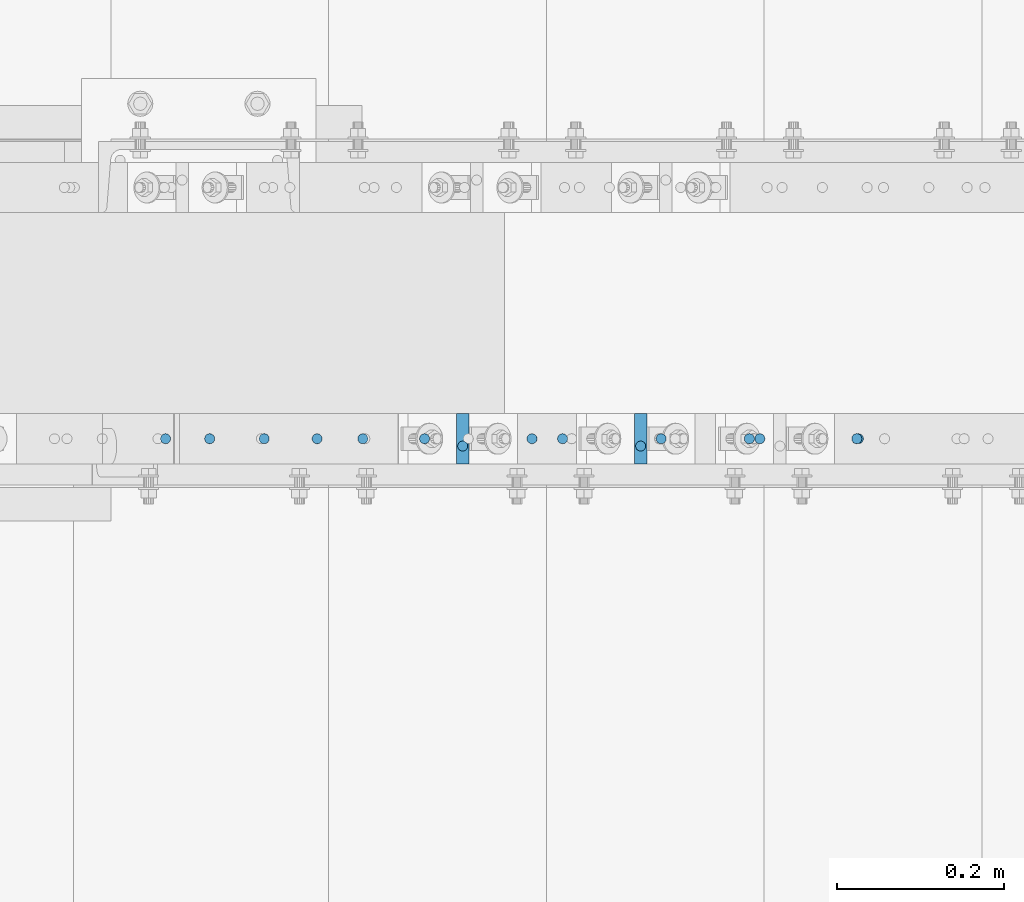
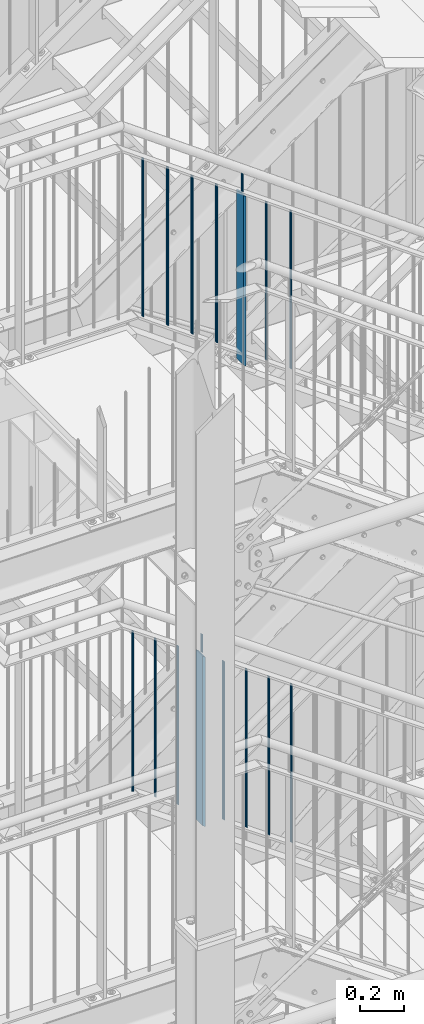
# One storey, part 48 of 821: 17 columns.
"""IFC2X3 building model written with IfcOpenShell, lengths in millimetres."""

from ifc_helpers import new_model, entity, si_unit, converted_unit, frame, origin, origin_with_axes, origin_2d, place, context, project, spatial, rectangle, circle, extrude, clip, halfspace, material, element, save


model = new_model("IFC2X3")

# Units and contexts
model_context = context("Model", 3, precision=1e-09, world=origin_with_axes())
ifc_project = project(units=[si_unit("LENGTHUNIT", "METRE", prefix="MILLI"), si_unit("AREAUNIT", "SQUARE_METRE"), si_unit("VOLUMEUNIT", "CUBIC_METRE"), converted_unit("PLANEANGLEUNIT", "DEGREE", entity("IfcPlaneAngleMeasure", 0.01745329), si_unit("PLANEANGLEUNIT", "RADIAN"), dimensions=[0, 0, 0, 0, 0, 0, 0])], contexts=[model_context])

# Site, building, storey
site_placement = place(None, origin_with_axes())
site = spatial("IfcSite", under=ifc_project, at=site_placement, Name="Cnopf'sche Kinderklinik", CompositionType="ELEMENT")
building_placement = place(site_placement, origin_with_axes())
building = spatial("IfcBuilding", under=site, at=building_placement, Name="Struktur 1", CompositionType="ELEMENT")
storey_placement = place(building_placement, origin_with_axes())
storey = spatial("IfcBuildingStorey", under=building, at=storey_placement, Name="Default Storey", CompositionType="ELEMENT", Elevation=0.0)

# Columns
ifc_material = material(Name="S235JR")
column_1_placement = place(None, frame((5656.713736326, 5791.736971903, 8064.386214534), z_axis=(0.0, 0.0, 1.0), x_axis=(-1.0, 0.0, 0.0)))
element("IfcColumn", 1, at=column_1_placement, inside=storey, material=ifc_material, Name="Railing_Post_Stair#2", ObjectType="Railing_Post_Stair#2", context=model_context, shape_type="Clipping", body=[
    clip(clip(extrude(rectangle(XDim=15.0, YDim=60.0, at=origin_2d()), origin(), (0.0, 0.0, -1.0), 1013.014378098), halfspace(frame((450.233714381, 5791.736971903, -658.681836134), z_axis=(-0.57512827, 0.0, 0.818063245), x_axis=(0.0, -1.0, 0.0)), True)), halfspace(frame((9.190133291, 5791.736971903, -31.340836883), z_axis=(0.57512827, 0.0, -0.818063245), x_axis=(0.0, 1.0, 0.0)), True)),
])
column_2_placement = place(None, frame((6129.213902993, 5791.736971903, 7704.773170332), z_axis=(0.0, 0.0, 1.0), x_axis=(-1.0, 0.0, 0.0)))
element("IfcColumn", 2, at=column_2_placement, inside=storey, material=ifc_material, Name="Railing_Picket_Stair#10", ObjectType="Railing_Picket_Stair#10", context=model_context, shape_type="Clipping", body=[
    clip(clip(extrude(circle(Radius=6.0, at=origin_2d()), origin(), (0.0, 0.0, -1.0), 897.037988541), halfspace(frame((481.690299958, 5791.736971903, 328.27220732), z_axis=(0.57512827, 0.0, -0.818063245), x_axis=(0.0, 1.0, 0.0)), True)), halfspace(frame((893.97746757, 5791.736971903, -258.165629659), z_axis=(-0.57512827, 0.0, 0.818063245), x_axis=(0.0, -1.0, 0.0)), True)),
])
column_3_placement = place(None, frame((6011.463847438, 5791.736971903, 7787.555749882), z_axis=(0.0, 0.0, 1.0), x_axis=(-1.0, 0.0, 0.0)))
element("IfcColumn", 3, at=column_3_placement, inside=storey, material=ifc_material, Name="Railing_Picket_Stair#11", ObjectType="Railing_Picket_Stair#11", context=model_context, shape_type="Clipping", body=[
    clip(clip(extrude(circle(Radius=6.0, at=origin_2d()), origin(), (0.0, 0.0, -1.0), 897.037988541), halfspace(frame((363.940244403, 5791.736971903, 245.489627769), z_axis=(0.57512827, 0.0, -0.818063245), x_axis=(0.0, 1.0, 0.0)), True)), halfspace(frame((776.227412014, 5791.736971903, -340.948209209), z_axis=(-0.57512827, 0.0, 0.818063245), x_axis=(0.0, -1.0, 0.0)), True)),
])
column_4_placement = place(None, frame((5893.713791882, 5791.736971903, 7870.338329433), z_axis=(0.0, 0.0, 1.0), x_axis=(-1.0, 0.0, 0.0)))
element("IfcColumn", 4, at=column_4_placement, inside=storey, material=ifc_material, Name="Railing_Picket_Stair#12", ObjectType="Railing_Picket_Stair#12", context=model_context, shape_type="Clipping", body=[
    clip(clip(extrude(circle(Radius=6.0, at=origin_2d()), origin(), (0.0, 0.0, -1.0), 897.037988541), halfspace(frame((246.190188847, 5791.736971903, 162.707048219), z_axis=(0.57512827, 0.0, -0.818063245), x_axis=(0.0, 1.0, 0.0)), True)), halfspace(frame((658.477356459, 5791.736971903, -423.73078876), z_axis=(-0.57512827, 0.0, 0.818063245), x_axis=(0.0, -1.0, 0.0)), True)),
])
column_5_placement = place(None, frame((5775.963736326, 5791.736971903, 7953.120908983), z_axis=(0.0, 0.0, 1.0), x_axis=(-1.0, 0.0, 0.0)))
element("IfcColumn", 5, at=column_5_placement, inside=storey, material=ifc_material, Name="Railing_Picket_Stair#13", ObjectType="Railing_Picket_Stair#13", context=model_context, shape_type="Clipping", body=[
    clip(clip(extrude(circle(Radius=6.0, at=origin_2d()), origin(), (0.0, 0.0, -1.0), 897.037988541), halfspace(frame((128.440133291, 5791.736971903, 79.924468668), z_axis=(0.57512827, 0.0, -0.818063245), x_axis=(0.0, 1.0, 0.0)), True)), halfspace(frame((540.727300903, 5791.736971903, -506.51336831), z_axis=(-0.57512827, 0.0, 0.818063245), x_axis=(0.0, -1.0, 0.0)), True)),
])
column_6_placement = place(None, frame((5537.463736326, 5791.736971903, 8120.795099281), z_axis=(0.0, 0.0, 1.0), x_axis=(-1.0, 0.0, 0.0)))
element("IfcColumn", 6, at=column_6_placement, inside=storey, material=ifc_material, Name="Railing_Picket_Stair#14", ObjectType="Railing_Picket_Stair#14", context=model_context, shape_type="Clipping", body=[
    clip(clip(extrude(circle(Radius=6.0, at=origin_2d()), origin(), (0.0, 0.0, -1.0), 897.037988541), halfspace(frame((-110.059866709, 5791.736971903, -87.74972163), z_axis=(0.57512827, 0.0, -0.818063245), x_axis=(0.0, 1.0, 0.0)), True)), halfspace(frame((302.227300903, 5791.736971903, -674.187558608), z_axis=(-0.57512827, 0.0, 0.818063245), x_axis=(0.0, -1.0, 0.0)), True)),
])
column_7_placement = place(None, frame((5419.713680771, 5791.736971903, 8203.577678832), z_axis=(0.0, 0.0, 1.0), x_axis=(-1.0, 0.0, 0.0)))
element("IfcColumn", 7, at=column_7_placement, inside=storey, material=ifc_material, Name="Railing_Picket_Stair#15", ObjectType="Railing_Picket_Stair#15", context=model_context, shape_type="Clipping", body=[
    clip(clip(extrude(circle(Radius=6.0, at=origin_2d()), origin(), (0.0, 0.0, -1.0), 897.037988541), halfspace(frame((-227.809922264, 5791.736971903, -170.532301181), z_axis=(0.57512827, 0.0, -0.818063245), x_axis=(0.0, 1.0, 0.0)), True)), halfspace(frame((184.477245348, 5791.736971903, -756.970138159), z_axis=(-0.57512827, 0.0, 0.818063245), x_axis=(0.0, -1.0, 0.0)), True)),
])
column_8_placement = place(None, frame((5301.963625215, 5791.736971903, 8286.360258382), z_axis=(0.0, 0.0, 1.0), x_axis=(-1.0, 0.0, 0.0)))
element("IfcColumn", 8, at=column_8_placement, inside=storey, material=ifc_material, Name="Railing_Picket_Landing#16", ObjectType="Railing_Picket_Landing#16", context=model_context, shape_type="Clipping", body=[
    clip(extrude(circle(Radius=6.0, at=origin_2d()), origin(), (0.0, 0.0, -1.0), 896.360258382), halfspace(frame((-345.55997782, 5791.736971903, -253.314880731), z_axis=(0.57512827, 0.0, -0.818063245), x_axis=(0.0, 1.0, 0.0)), True)),
])
column_9_placement = place(None, frame((5656.713736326, 5782.936971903, 8149.181997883), z_axis=(0.0, 0.0, 1.0), x_axis=(0.0, 1.0, 0.0)))
element("IfcColumn", 9, at=column_9_placement, inside=storey, material=ifc_material, Name="Bar#2", ObjectType="Bar#2", context=model_context, shape_type="Clipping", body=[
    clip(clip(extrude(circle(Radius=6.0, at=origin_2d()), origin(), (0.0, 0.0, -1.0), 120.744805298), halfspace(frame((-5782.936971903, 3.437700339, -107.954351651), z_axis=(0.0, -0.57512827, 0.818063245), x_axis=(1.0, 0.0, 0.0)), True)), halfspace(frame((-5782.936971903, -43.610279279, -41.033240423), z_axis=(0.0, 0.57512827, -0.818063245), x_axis=(-1.0, 0.0, 0.0)), True)),
])
column_10_placement = place(None, frame((5869.213902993, 5791.736971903, 10534.312017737), z_axis=(0.0, 0.0, 1.0), x_axis=(-1.0, 0.0, 0.0)))
element("IfcColumn", 10, at=column_10_placement, inside=storey, material=ifc_material, Name="Railing_Post_Stair#1", ObjectType="Railing_Post_Stair#1", context=model_context, shape_type="Clipping", body=[
    clip(clip(extrude(rectangle(XDim=15.0, YDim=60.0, at=origin_2d()), origin(), (0.0, 0.0, -1.0), 1013.13824851), halfspace(frame((-684.85248842, 5791.736971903, -1470.177646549), z_axis=(-0.585945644, 0.0, 0.810350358), x_axis=(0.0, -1.0, 0.0)), True)), halfspace(frame((-1129.672161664, 5791.736971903, -855.001502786), z_axis=(0.585945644, 0.0, -0.810350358), x_axis=(0.0, 1.0, 0.0)), True)),
])
column_11_placement = place(None, frame((6127.271117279, 5791.736971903, 10320.02753007), z_axis=(0.0, 0.0, 1.0), x_axis=(-1.0, 0.0, 0.0)))
element("IfcColumn", 11, at=column_11_placement, inside=storey, material=ifc_material, Name="Railing_Picket_Stair#6", ObjectType="Railing_Picket_Stair#6", context=model_context, shape_type="Clipping", body=[
    clip(clip(extrude(circle(Radius=6.0, at=origin_2d()), origin(), (0.0, 0.0, -1.0), 896.057999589), halfspace(frame((-871.614947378, 5791.736971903, -640.71701512), z_axis=(0.585945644, 0.0, -0.810350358), x_axis=(0.0, 1.0, 0.0)), True)), halfspace(frame((-456.092556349, 5791.736971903, -1215.37564101), z_axis=(-0.585945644, 0.0, 0.810350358), x_axis=(0.0, -1.0, 0.0)), True)),
])
column_12_placement = place(None, frame((5998.993902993, 5791.736971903, 10412.781823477), z_axis=(0.0, 0.0, 1.0), x_axis=(-1.0, 0.0, 0.0)))
element("IfcColumn", 12, at=column_12_placement, inside=storey, material=ifc_material, Name="Railing_Picket_Stair#7", ObjectType="Railing_Picket_Stair#7", context=model_context, shape_type="Clipping", body=[
    clip(clip(extrude(circle(Radius=6.0, at=origin_2d()), origin(), (0.0, 0.0, -1.0), 896.057999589), halfspace(frame((-999.892161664, 5791.736971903, -733.471308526), z_axis=(0.585945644, 0.0, -0.810350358), x_axis=(0.0, 1.0, 0.0)), True)), halfspace(frame((-584.369770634, 5791.736971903, -1308.129934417), z_axis=(-0.585945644, 0.0, 0.810350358), x_axis=(0.0, -1.0, 0.0)), True)),
])
column_13_placement = place(None, frame((5739.433902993, 5791.736971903, 10600.463669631), z_axis=(0.0, 0.0, 1.0), x_axis=(-1.0, 0.0, 0.0)))
element("IfcColumn", 13, at=column_13_placement, inside=storey, material=ifc_material, Name="Railing_Picket_Stair#8", ObjectType="Railing_Picket_Stair#8", context=model_context, shape_type="Clipping", body=[
    clip(clip(extrude(circle(Radius=6.0, at=origin_2d()), origin(), (0.0, 0.0, -1.0), 896.05799959), halfspace(frame((-1259.452161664, 5791.736971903, -921.15315468), z_axis=(0.585945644, 0.0, -0.810350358), x_axis=(0.0, 1.0, 0.0)), True)), halfspace(frame((-843.929770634, 5791.736971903, -1495.811780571), z_axis=(-0.585945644, 0.0, 0.810350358), x_axis=(0.0, -1.0, 0.0)), True)),
])
column_14_placement = place(None, frame((5611.156688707, 5791.736971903, 10693.217963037), z_axis=(0.0, 0.0, 1.0), x_axis=(-1.0, 0.0, 0.0)))
element("IfcColumn", 14, at=column_14_placement, inside=storey, material=ifc_material, Name="Railing_Picket_Stair#9", ObjectType="Railing_Picket_Stair#9", context=model_context, shape_type="Clipping", body=[
    clip(clip(extrude(circle(Radius=6.0, at=origin_2d()), origin(), (0.0, 0.0, -1.0), 896.057999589), halfspace(frame((-1387.729375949, 5791.736971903, -1013.907448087), z_axis=(0.585945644, 0.0, -0.810350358), x_axis=(0.0, 1.0, 0.0)), True)), halfspace(frame((-972.20698492, 5791.736971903, -1588.566073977), z_axis=(-0.585945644, 0.0, 0.810350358), x_axis=(0.0, -1.0, 0.0)), True)),
])
column_15_placement = place(None, frame((5482.879474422, 5791.736971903, 10785.972256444), z_axis=(0.0, 0.0, 1.0), x_axis=(-1.0, 0.0, 0.0)))
element("IfcColumn", 15, at=column_15_placement, inside=storey, material=ifc_material, Name="Railing_Picket_Stair#10", ObjectType="Railing_Picket_Stair#10", context=model_context, shape_type="Clipping", body=[
    clip(clip(extrude(circle(Radius=6.0, at=origin_2d()), origin(), (0.0, 0.0, -1.0), 896.057999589), halfspace(frame((-1516.006590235, 5791.736971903, -1106.661741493), z_axis=(0.585945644, 0.0, -0.810350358), x_axis=(0.0, 1.0, 0.0)), True)), halfspace(frame((-1100.484199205, 5791.736971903, -1681.320367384), z_axis=(-0.585945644, 0.0, 0.810350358), x_axis=(0.0, -1.0, 0.0)), True)),
])
column_16_placement = place(None, frame((5354.602260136, 5791.736971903, 10878.72654985), z_axis=(0.0, 0.0, 1.0), x_axis=(-1.0, 0.0, 0.0)))
element("IfcColumn", 16, at=column_16_placement, inside=storey, material=ifc_material, Name="Railing_Picket_Stair#11", ObjectType="Railing_Picket_Stair#11", context=model_context, shape_type="Clipping", body=[
    clip(clip(extrude(circle(Radius=6.0, at=origin_2d()), origin(), (0.0, 0.0, -1.0), 896.057999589), halfspace(frame((-1644.283804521, 5791.736971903, -1199.4160349), z_axis=(0.585945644, 0.0, -0.810350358), x_axis=(0.0, 1.0, 0.0)), True)), halfspace(frame((-1228.761413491, 5791.736971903, -1774.07466079), z_axis=(-0.585945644, 0.0, 0.810350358), x_axis=(0.0, -1.0, 0.0)), True)),
])
column_17_placement = place(None, frame((5869.213902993, 5782.936971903, 10618.963087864), z_axis=(0.0, 0.0, 1.0), x_axis=(0.0, 1.0, 0.0)))
element("IfcColumn", 17, at=column_17_placement, inside=storey, material=ifc_material, Name="Bar#1", ObjectType="Bar#1", context=model_context, shape_type="Clipping", body=[
    clip(clip(extrude(circle(Radius=6.0, at=origin_2d()), origin(), (0.0, 0.0, -1.0), 120.942253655), halfspace(frame((-5782.936971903, -1135.532789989, -931.547448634), z_axis=(0.0, -0.585945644, 0.810350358), x_axis=(1.0, 0.0, 0.0)), True)), halfspace(frame((-5782.936971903, -1183.013744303, -865.882299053), z_axis=(0.0, 0.585945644, -0.810350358), x_axis=(-1.0, 0.0, 0.0)), True)),
])

save(model, "model.ifc")
